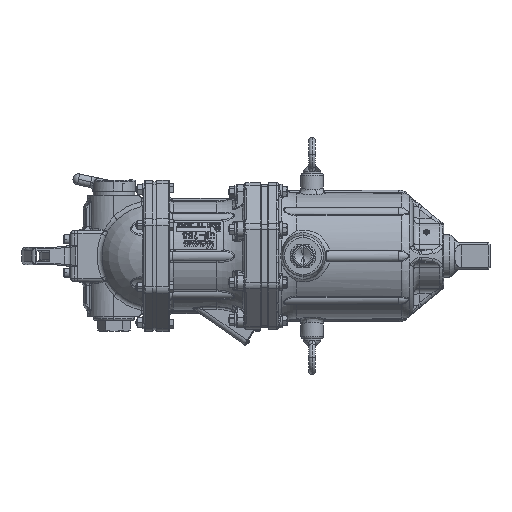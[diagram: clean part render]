
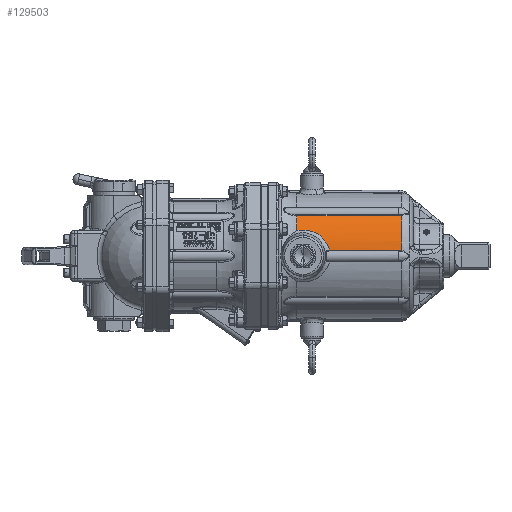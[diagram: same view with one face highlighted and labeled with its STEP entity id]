
A CAD part, left-side view. The second image highlights one B-rep face of the part: STEP entity #129503.
In plain terms, the highlighted cylindrical face has radius 91 mm (diameter 182 mm), a partial arc.
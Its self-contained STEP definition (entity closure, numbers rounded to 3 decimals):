
#9448 = FACE_OUTER_BOUND ( 'NONE', #16409, .T. ) ;
#9471 = AXIS2_PLACEMENT_3D ( 'NONE', #14558, #14560, #14562 ) ;
#9472 = CYLINDRICAL_SURFACE ( 'NONE', #9471, 91. ) ;
#14558 = CARTESIAN_POINT ( 'NONE',  ( 0., 0., 0. ) ) ;
#14560 = DIRECTION ( 'NONE',  ( -1., 0., 0. ) ) ;
#14562 = DIRECTION ( 'NONE',  ( 0., 0., 1. ) ) ;
#16409 = EDGE_LOOP ( 'NONE', ( #40298, #40300, #40299, #40303, #40306, #40305, #40308 ) ) ;
#27021 = CIRCLE ( 'NONE', #94220, 91. ) ;
#27210 = CIRCLE ( 'NONE', #94595, 91. ) ;
#33809 = EDGE_CURVE ( 'NONE', #132665, #132663, #27021, .T. ) ;
#34629 = EDGE_CURVE ( 'NONE', #133145, #133147, #27210, .T. ) ;
#34636 = EDGE_CURVE ( 'NONE', #133151, #132665, #126163, .T. ) ;
#34640 = EDGE_CURVE ( 'NONE', #133145, #133151, #108010, .T. ) ;
#34647 = EDGE_CURVE ( 'NONE', #132663, #133152, #108002, .T. ) ;
#34652 = EDGE_CURVE ( 'NONE', #133152, #133155, #126328, .T. ) ;
#34659 = EDGE_CURVE ( 'NONE', #133155, #133147, #108017, .T. ) ;
#36130 = CARTESIAN_POINT ( 'NONE',  ( 212.077, 83.378, 36.457 ) ) ;
#36132 = CARTESIAN_POINT ( 'NONE',  ( 212.077, 70.155, 57.959 ) ) ;
#38223 = CARTESIAN_POINT ( 'NONE',  ( 61., 69.795, 58.392 ) ) ;
#38224 = CARTESIAN_POINT ( 'NONE',  ( 61., 90.642, 8.064 ) ) ;
#38227 = CARTESIAN_POINT ( 'NONE',  ( 65.08, 70.155, 57.959 ) ) ;
#38228 = CARTESIAN_POINT ( 'NONE',  ( 164.906, 90.59, 8.624 ) ) ;
#38231 = CARTESIAN_POINT ( 'NONE',  ( 65.08, 90.59, 8.624 ) ) ;
#40298 = ORIENTED_EDGE ( 'NONE', *, *, #34640, .T. ) ;
#40299 = ORIENTED_EDGE ( 'NONE', *, *, #33809, .T. ) ;
#40300 = ORIENTED_EDGE ( 'NONE', *, *, #34636, .T. ) ;
#40303 = ORIENTED_EDGE ( 'NONE', *, *, #34647, .T. ) ;
#40305 = ORIENTED_EDGE ( 'NONE', *, *, #34659, .T. ) ;
#40306 = ORIENTED_EDGE ( 'NONE', *, *, #34652, .T. ) ;
#40308 = ORIENTED_EDGE ( 'NONE', *, *, #34629, .F. ) ;
#94220 = AXIS2_PLACEMENT_3D ( 'NONE', #114260, #114268, #114270 ) ;
#94595 = AXIS2_PLACEMENT_3D ( 'NONE', #126094, #126097, #126100 ) ;
#94597 = VECTOR ( 'NONE', #126169, 1000. ) ;
#94603 = VECTOR ( 'NONE', #126334, 1000. ) ;
#108002 = B_SPLINE_CURVE_WITH_KNOTS ( 'NONE', 3,
 ( #126208, #126211, #126214, #126217, #126220, #126223, #126226, #126229, #126232, #126235, #126238, #126241, #126244, #126247, #126250, #126253, #126256, #126259, #126262, #126265, #126268, #126271, #126274, #126277, #126280, #126283, #126286, #126289, #126292, #126295, #126298, #126301, #126304, #126307, #126310, #126313 ),
 .UNSPECIFIED., .F., .F.,
 ( 4, 2, 2, 2, 2, 2, 2, 2, 2, 2, 2, 2, 2, 2, 2, 2, 2, 4 ),
 ( 0., 0.008, 0.01, 0.012, 0.015, 0.019, 0.021, 0.023, 0.031, 0.035, 0.036, 0.038, 0.046, 0.05, 0.054, 0.058, 0.059, 0.061 ),
 .UNSPECIFIED. ) ;
#108010 = B_SPLINE_CURVE_WITH_KNOTS ( 'NONE', 3,
 ( #126160, #126181, #126184, #126187 ),
 .UNSPECIFIED., .F., .F.,
 ( 4, 4 ),
 ( 0., 0.004 ),
 .UNSPECIFIED. ) ;
#108017 = B_SPLINE_CURVE_WITH_KNOTS ( 'NONE', 3,
 ( #126325, #126355, #126358, #126361 ),
 .UNSPECIFIED., .F., .F.,
 ( 4, 4 ),
 ( 0., 0.004 ),
 .UNSPECIFIED. ) ;
#114260 = CARTESIAN_POINT ( 'NONE',  ( 212.077, 0., 0. ) ) ;
#114268 = DIRECTION ( 'NONE',  ( -1., 0., 0. ) ) ;
#114270 = DIRECTION ( 'NONE',  ( 0., 0., 1. ) ) ;
#126094 = CARTESIAN_POINT ( 'NONE',  ( 61., 0., 0. ) ) ;
#126097 = DIRECTION ( 'NONE',  ( -1., 0., 0. ) ) ;
#126100 = DIRECTION ( 'NONE',  ( 0., 0., 1. ) ) ;
#126160 = CARTESIAN_POINT ( 'NONE',  ( 61., 69.795, 58.392 ) ) ;
#126163 = LINE ( 'NONE', #126166, #94597 ) ;
#126166 = CARTESIAN_POINT ( 'NONE',  ( 0., 70.155, 57.959 ) ) ;
#126169 = DIRECTION ( 'NONE',  ( 1., 0., 0. ) ) ;
#126181 = CARTESIAN_POINT ( 'NONE',  ( 62.334, 70.038, 58.102 ) ) ;
#126184 = CARTESIAN_POINT ( 'NONE',  ( 63.694, 70.155, 57.959 ) ) ;
#126187 = CARTESIAN_POINT ( 'NONE',  ( 65.08, 70.155, 57.959 ) ) ;
#126208 = CARTESIAN_POINT ( 'NONE',  ( 212.077, 83.378, 36.457 ) ) ;
#126211 = CARTESIAN_POINT ( 'NONE',  ( 209.578, 83.128, 37.03 ) ) ;
#126214 = CARTESIAN_POINT ( 'NONE',  ( 207.047, 82.976, 37.362 ) ) ;
#126217 = CARTESIAN_POINT ( 'NONE',  ( 203.842, 82.923, 37.479 ) ) ;
#126220 = CARTESIAN_POINT ( 'NONE',  ( 203.197, 82.92, 37.487 ) ) ;
#126223 = CARTESIAN_POINT ( 'NONE',  ( 201.913, 82.926, 37.473 ) ) ;
#126226 = CARTESIAN_POINT ( 'NONE',  ( 201.273, 82.936, 37.451 ) ) ;
#126229 = CARTESIAN_POINT ( 'NONE',  ( 199.363, 82.986, 37.34 ) ) ;
#126232 = CARTESIAN_POINT ( 'NONE',  ( 198.101, 83.046, 37.207 ) ) ;
#126235 = CARTESIAN_POINT ( 'NONE',  ( 195.597, 83.217, 36.824 ) ) ;
#126238 = CARTESIAN_POINT ( 'NONE',  ( 194.355, 83.327, 36.574 ) ) ;
#126241 = CARTESIAN_POINT ( 'NONE',  ( 192.509, 83.528, 36.112 ) ) ;
#126244 = CARTESIAN_POINT ( 'NONE',  ( 191.897, 83.601, 35.943 ) ) ;
#126247 = CARTESIAN_POINT ( 'NONE',  ( 190.677, 83.758, 35.575 ) ) ;
#126250 = CARTESIAN_POINT ( 'NONE',  ( 190.069, 83.842, 35.377 ) ) ;
#126253 = CARTESIAN_POINT ( 'NONE',  ( 187.079, 84.286, 34.319 ) ) ;
#126256 = CARTESIAN_POINT ( 'NONE',  ( 184.808, 84.713, 33.263 ) ) ;
#126259 = CARTESIAN_POINT ( 'NONE',  ( 181.571, 85.423, 31.373 ) ) ;
#126262 = CARTESIAN_POINT ( 'NONE',  ( 180.52, 85.672, 30.692 ) ) ;
#126265 = CARTESIAN_POINT ( 'NONE',  ( 178.988, 86.056, 29.588 ) ) ;
#126268 = CARTESIAN_POINT ( 'NONE',  ( 178.486, 86.186, 29.208 ) ) ;
#126271 = CARTESIAN_POINT ( 'NONE',  ( 177.505, 86.447, 28.427 ) ) ;
#126274 = CARTESIAN_POINT ( 'NONE',  ( 177.026, 86.578, 28.027 ) ) ;
#126277 = CARTESIAN_POINT ( 'NONE',  ( 174.683, 87.233, 25.97 ) ) ;
#126280 = CARTESIAN_POINT ( 'NONE',  ( 172.981, 87.759, 24.158 ) ) ;
#126283 = CARTESIAN_POINT ( 'NONE',  ( 170.69, 88.509, 21.173 ) ) ;
#126286 = CARTESIAN_POINT ( 'NONE',  ( 169.968, 88.753, 20.129 ) ) ;
#126289 = CARTESIAN_POINT ( 'NONE',  ( 168.646, 89.211, 17.99 ) ) ;
#126292 = CARTESIAN_POINT ( 'NONE',  ( 168.041, 89.426, 16.891 ) ) ;
#126295 = CARTESIAN_POINT ( 'NONE',  ( 166.945, 89.823, 14.634 ) ) ;
#126298 = CARTESIAN_POINT ( 'NONE',  ( 166.454, 90.005, 13.475 ) ) ;
#126301 = CARTESIAN_POINT ( 'NONE',  ( 165.806, 90.248, 11.691 ) ) ;
#126304 = CARTESIAN_POINT ( 'NONE',  ( 165.604, 90.324, 11.088 ) ) ;
#126307 = CARTESIAN_POINT ( 'NONE',  ( 165.231, 90.466, 9.866 ) ) ;
#126310 = CARTESIAN_POINT ( 'NONE',  ( 165.06, 90.531, 9.247 ) ) ;
#126313 = CARTESIAN_POINT ( 'NONE',  ( 164.906, 90.59, 8.624 ) ) ;
#126325 = CARTESIAN_POINT ( 'NONE',  ( 65.08, 90.59, 8.624 ) ) ;
#126328 = LINE ( 'NONE', #126331, #94603 ) ;
#126331 = CARTESIAN_POINT ( 'NONE',  ( 0., 90.59, 8.624 ) ) ;
#126334 = DIRECTION ( 'NONE',  ( -1., 0., 0. ) ) ;
#126355 = CARTESIAN_POINT ( 'NONE',  ( 63.694, 90.59, 8.624 ) ) ;
#126358 = CARTESIAN_POINT ( 'NONE',  ( 62.334, 90.609, 8.44 ) ) ;
#126361 = CARTESIAN_POINT ( 'NONE',  ( 61., 90.642, 8.064 ) ) ;
#129503 = ADVANCED_FACE ( 'NONE', ( #9448 ), #9472, .T. ) ;
#132663 = VERTEX_POINT ( 'NONE', #36130 ) ;
#132665 = VERTEX_POINT ( 'NONE', #36132 ) ;
#133145 = VERTEX_POINT ( 'NONE', #38223 ) ;
#133147 = VERTEX_POINT ( 'NONE', #38224 ) ;
#133151 = VERTEX_POINT ( 'NONE', #38227 ) ;
#133152 = VERTEX_POINT ( 'NONE', #38228 ) ;
#133155 = VERTEX_POINT ( 'NONE', #38231 ) ;
